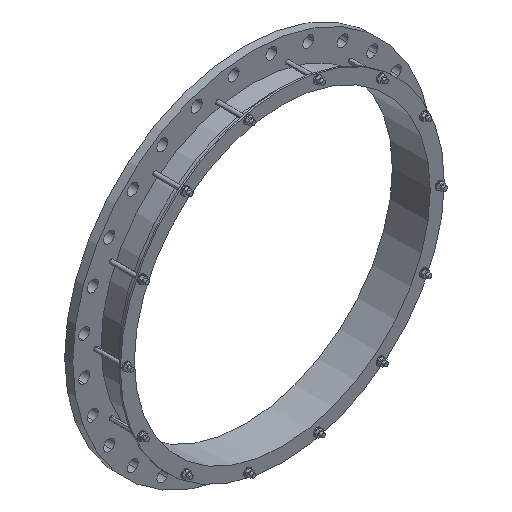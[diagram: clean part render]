
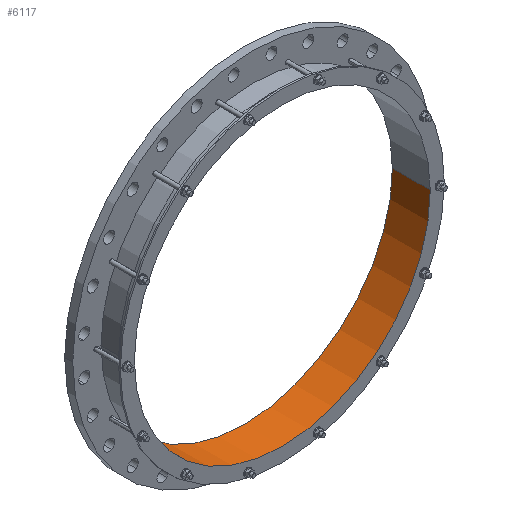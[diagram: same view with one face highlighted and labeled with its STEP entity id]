
A CAD part, isometric view. The second image highlights one B-rep face of the part: STEP entity #6117.
In plain terms, the highlighted cylindrical face has radius 458.75 mm (diameter 917.5 mm), a partial arc.
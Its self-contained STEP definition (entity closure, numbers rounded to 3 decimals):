
#7=CARTESIAN_POINT('',(0.,25.,0.));
#8=DIRECTION('',(0.,1.,0.));
#9=DIRECTION('',(1.,0.,0.));
#10=AXIS2_PLACEMENT_3D('',#7,#8,#9);
#1648=CARTESIAN_POINT('',(0.,-92.452,0.));
#1649=DIRECTION('',(0.,1.,0.));
#1650=DIRECTION('',(1.,0.,0.));
#1651=AXIS2_PLACEMENT_3D('',#1648,#1649,#1650);
#1653=DIRECTION('',(0.,1.,0.));
#1654=VECTOR('',#1653,117.452);
#1655=CARTESIAN_POINT('',(458.75,-92.452,0.));
#1656=LINE('',#1655,#1654);
#1657=DIRECTION('',(0.,1.,0.));
#1658=VECTOR('',#1657,117.452);
#1659=CARTESIAN_POINT('',(-458.75,-92.452,0.));
#1660=LINE('',#1659,#1658);
#4174=CARTESIAN_POINT('',(458.75,-92.452,0.));
#4175=CARTESIAN_POINT('',(458.75,25.,0.));
#4176=VERTEX_POINT('',#4174);
#4177=VERTEX_POINT('',#4175);
#4186=CARTESIAN_POINT('',(-458.75,-92.452,0.));
#4187=CARTESIAN_POINT('',(-458.75,25.,0.));
#4188=VERTEX_POINT('',#4186);
#4189=VERTEX_POINT('',#4187);
#6104=CARTESIAN_POINT('',(0.,-98.325,0.));
#6105=DIRECTION('',(0.,1.,0.));
#6106=DIRECTION('',(-1.,0.,0.));
#6107=AXIS2_PLACEMENT_3D('',#6104,#6105,#6106);
#6108=CYLINDRICAL_SURFACE('',#6107,458.75);
#6110=ORIENTED_EDGE('',*,*,#6109,.F.);
#6111=ORIENTED_EDGE('',*,*,#6015,.T.);
#6113=ORIENTED_EDGE('',*,*,#6112,.T.);
#6114=ORIENTED_EDGE('',*,*,#5147,.F.);
#6115=EDGE_LOOP('',(#6110,#6111,#6113,#6114));
#6116=FACE_OUTER_BOUND('',#6115,.F.);
#6117=ADVANCED_FACE('',(#6116),#6108,.F.);
#11=CIRCLE('',#10,458.75);
#1652=CIRCLE('',#1651,458.75);
#5147=EDGE_CURVE('',#4177,#4189,#11,.T.);
#6015=EDGE_CURVE('',#4176,#4188,#1652,.T.);
#6109=EDGE_CURVE('',#4176,#4177,#1656,.T.);
#6112=EDGE_CURVE('',#4188,#4189,#1660,.T.);
